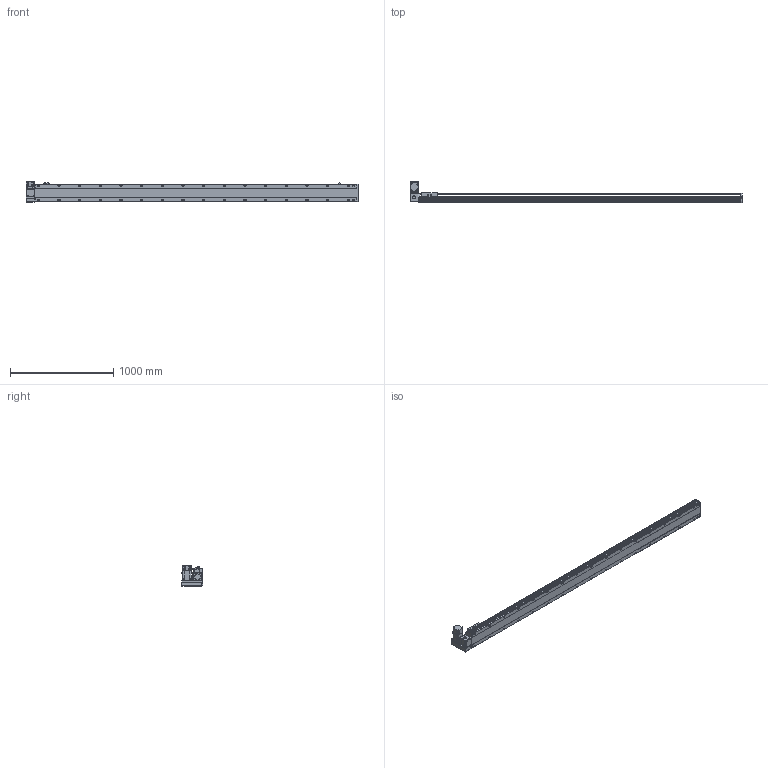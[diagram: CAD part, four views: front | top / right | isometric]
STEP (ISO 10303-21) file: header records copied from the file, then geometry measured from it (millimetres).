
FILE_DESCRIPTION( ( 'STEP AP214' ), '1' );
FILE_NAME( 'x:/temp/worker_4/temp/exporttempdir_2248_421_5VZeL/format_0/PBS170-P40-S2850-LU-T75-C1-N(0).stp', '2022-06-07T08:17:55', ( 'License CC BY-ND 4.0' ), ( 'CADENAS' ), ' ', 'PARTsolutions', ' ' );
FILE_SCHEMA( ( 'AUTOMOTIVE_DESIGN { 1 0 10303 214 1 1 1 1 }' ) );
Length unit declared in the file: millimetre
Products named in the file (7): PBS170-P40-S2850-LU-T75-C1-N(0); _PBS170-S2850()_body; _PBS170T-LU_motors; _T75-p1; _PBS170_sliser; _PBS170_plant; _PBS170_sensor
Assembly tree (8 placements, depth 2):
  PBS170-P40-S2850-LU-T75-C1-N(0)
    _PBS170-S2850()_body
    _PBS170T-LU_motors
    _T75-p1
    _PBS170_sliser
    _PBS170_plant
    _PBS170_sensor  x3
Bounding box: 3213 x 206 x 197.3 mm (x, y, z)
Volume: 24169487 mm3; surface area: 3031626.1 mm2
Topology: 8 solids, 8 shells, 1226 faces, 3235 edges, 2108 vertices
Faces by surface type: plane 741, cylinder 411, cone 64, sphere 8, torus 2
Full cylindrical faces by diameter (mm): 3.242 x4, 4 x2, 4.4 x4, 4.5 x6, 4.917 x4, 6 x9, 6.647 x42, 7 x2, 7.5 x4, 8 x8, 8.5 x34, 10 x4, 10.5 x34, 11 x2, 30 x2, 40 x1, 70 x1
Entity records: 45518 total; most frequent: CARTESIAN_POINT 7733, DIRECTION 5930, ORIENTED_EDGE 5568, EDGE_CURVE 2784, AXIS2_PLACEMENT_3D 2107, VERTEX_POINT 1946, LINE 1716, VECTOR 1716
